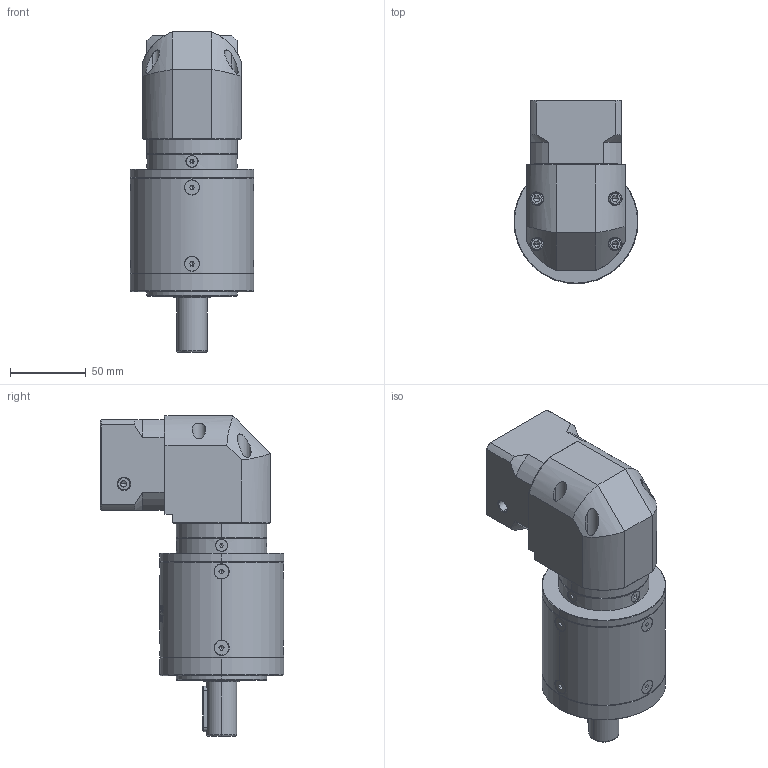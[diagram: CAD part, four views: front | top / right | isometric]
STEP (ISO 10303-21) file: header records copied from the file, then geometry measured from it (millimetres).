
FILE_DESCRIPTION (( 'STEP AP214' ), '1' );
FILE_NAME ('ZER080-D20-L3-P2-11-50-70-M5.step', '2023-08-25T13:43:09', ( '' ), ( '' ), 'SwSTEP 2.0', 'SolidWorks 2016', '' );
FILE_SCHEMA (( 'AUTOMOTIVE_DESIGN' ));
Length unit declared in the file: millimetre
Products named in the file (1): ZER080-D20-L3-P2-11-50-70-M5
Bounding box: 82 x 121.2 x 212 mm (x, y, z)
Volume: 862686 mm3; surface area: 103121.7 mm2
Topology: 17 solids, 18 shells, 2418 faces, 6345 edges, 4037 vertices
Faces by surface type: plane 1163, cylinder 446, bspline 394, cone 367, torus 48
Entity records: 125905 total; most frequent: CARTESIAN_POINT 44539, ORIENTED_EDGE 12582, DIRECTION 9735, EDGE_CURVE 6291, VERTEX_POINT 4037, LINE 3345, VECTOR 3345, AXIS2_PLACEMENT_3D 3195
